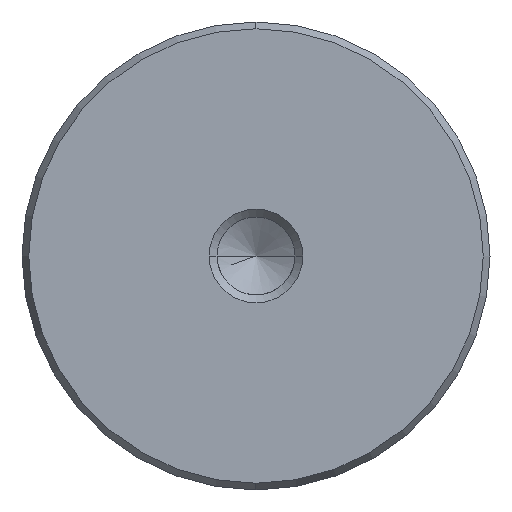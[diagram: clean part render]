
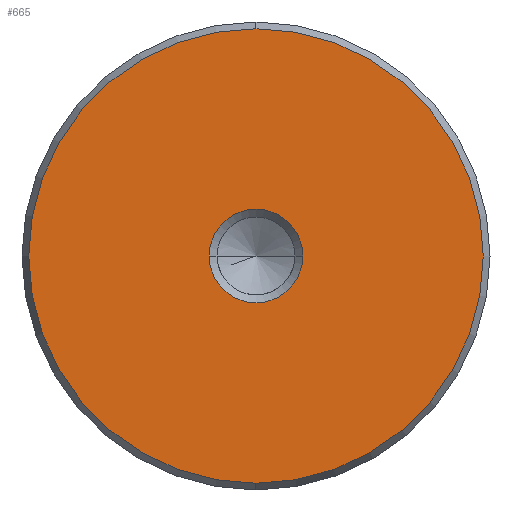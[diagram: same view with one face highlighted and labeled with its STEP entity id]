
A CAD part, left-side view. The second image highlights one B-rep face of the part: STEP entity #665.
In plain terms, the highlighted planar face has unit normal (-1, 0, 0).
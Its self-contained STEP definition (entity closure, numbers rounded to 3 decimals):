
#579=CARTESIAN_POINT('Vertex',(0.,0.,-19.423)) ;
#582=CARTESIAN_POINT('Axis2P3D Location',(0.,0.,0.)) ;
#586=CARTESIAN_POINT('Vertex',(0.,19.423,0.)) ;
#589=CARTESIAN_POINT('Axis2P3D Location',(0.,0.,0.)) ;
#593=CARTESIAN_POINT('Vertex',(0.,0.,19.423)) ;
#615=CARTESIAN_POINT('Axis2P3D Location',(0.,0.,0.)) ;
#619=CARTESIAN_POINT('Vertex',(0.,-19.423,0.)) ;
#622=CARTESIAN_POINT('Axis2P3D Location',(0.,0.,0.)) ;
#636=CARTESIAN_POINT('Axis2P3D Location',(0.,0.,0.)) ;
#647=CARTESIAN_POINT('Axis2P3D Location',(0.,0.,0.)) ;
#651=CARTESIAN_POINT('Vertex',(0.,4.,0.)) ;
#653=CARTESIAN_POINT('Vertex',(0.,-4.,0.)) ;
#656=CARTESIAN_POINT('Axis2P3D Location',(0.,0.,0.)) ;
#583=DIRECTION('Axis2P3D Direction',(1.,0.,-0.)) ;
#590=DIRECTION('Axis2P3D Direction',(1.,0.,-0.)) ;
#616=DIRECTION('Axis2P3D Direction',(1.,0.,-0.)) ;
#623=DIRECTION('Axis2P3D Direction',(1.,0.,-0.)) ;
#637=DIRECTION('Axis2P3D Direction',(1.,0.,-0.)) ;
#638=DIRECTION('Axis2P3D XDirection',(-0.,0.,-1.)) ;
#648=DIRECTION('Axis2P3D Direction',(1.,0.,-0.)) ;
#657=DIRECTION('Axis2P3D Direction',(1.,0.,-0.)) ;
#584=AXIS2_PLACEMENT_3D('Circle Axis2P3D',#582,#583,$) ;
#591=AXIS2_PLACEMENT_3D('Circle Axis2P3D',#589,#590,$) ;
#617=AXIS2_PLACEMENT_3D('Circle Axis2P3D',#615,#616,$) ;
#624=AXIS2_PLACEMENT_3D('Circle Axis2P3D',#622,#623,$) ;
#639=AXIS2_PLACEMENT_3D('Plane Axis2P3D',#636,#637,#638) ;
#649=AXIS2_PLACEMENT_3D('Circle Axis2P3D',#647,#648,$) ;
#658=AXIS2_PLACEMENT_3D('Circle Axis2P3D',#656,#657,$) ;
#642=ORIENTED_EDGE('',*,*,#588,.F.) ;
#643=ORIENTED_EDGE('',*,*,#626,.F.) ;
#644=ORIENTED_EDGE('',*,*,#621,.F.) ;
#645=ORIENTED_EDGE('',*,*,#595,.F.) ;
#662=ORIENTED_EDGE('',*,*,#655,.T.) ;
#663=ORIENTED_EDGE('',*,*,#660,.T.) ;
#664=FACE_BOUND('',#661,.T.) ;
#665=ADVANCED_FACE('720-40x450',(#646,#664),#640,.F.) ;
#585=CIRCLE('generated circle',#584,19.423) ;
#592=CIRCLE('generated circle',#591,19.423) ;
#618=CIRCLE('generated circle',#617,19.423) ;
#625=CIRCLE('generated circle',#624,19.423) ;
#650=CIRCLE('generated circle',#649,4.) ;
#659=CIRCLE('generated circle',#658,4.) ;
#588=EDGE_CURVE('',#580,#587,#585,.T.) ;
#595=EDGE_CURVE('',#587,#594,#592,.T.) ;
#621=EDGE_CURVE('',#594,#620,#618,.T.) ;
#626=EDGE_CURVE('',#620,#580,#625,.T.) ;
#655=EDGE_CURVE('',#652,#654,#650,.T.) ;
#660=EDGE_CURVE('',#654,#652,#659,.T.) ;
#641=EDGE_LOOP('',(#642,#643,#644,#645)) ;
#661=EDGE_LOOP('',(#662,#663)) ;
#646=FACE_OUTER_BOUND('',#641,.T.) ;
#640=PLANE('Plane',#639) ;
#580=VERTEX_POINT('',#579) ;
#587=VERTEX_POINT('',#586) ;
#594=VERTEX_POINT('',#593) ;
#620=VERTEX_POINT('',#619) ;
#652=VERTEX_POINT('',#651) ;
#654=VERTEX_POINT('',#653) ;
